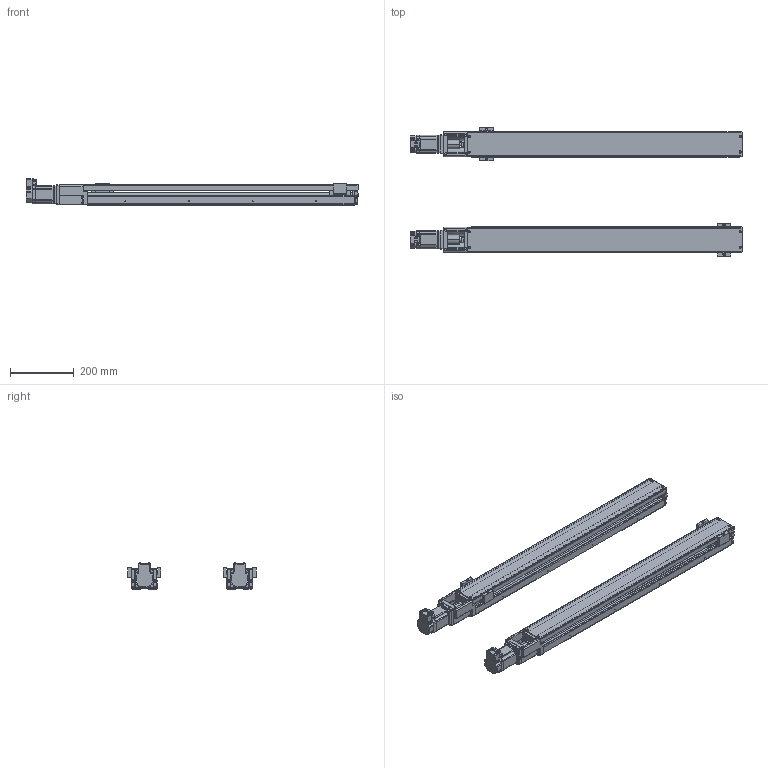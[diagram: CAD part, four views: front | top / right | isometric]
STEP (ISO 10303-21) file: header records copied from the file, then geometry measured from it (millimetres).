
FILE_DESCRIPTION(('STEP AP214'),'1');
FILE_NAME('D:\仕事\図面\SCKR6\tmp0.STEP',' ',(' '),(' '),'XStep 1.0',' ',' ');
FILE_SCHEMA(('automotive_design'));
Length unit declared in the file: millimetre
Bounding box: 1045.01 x 404 x 82.36 mm (x, y, z)
Volume: 4672760.3 mm3; surface area: 1247961.3 mm2
Topology: 116 solids, 116 shells, 4218 faces, 10348 edges, 6362 vertices
Faces by surface type: cylinder 1800, plane 1356, torus 752, bspline 186, cone 92, sphere 32
Entity records: 172903 total; most frequent: CARTESIAN_POINT 33736, DIRECTION 23590, ORIENTED_EDGE 20568, EDGE_CURVE 10284, AXIS2_PLACEMENT_3D 9320, VERTEX_POINT 6362, LINE 4950, VECTOR 4950
